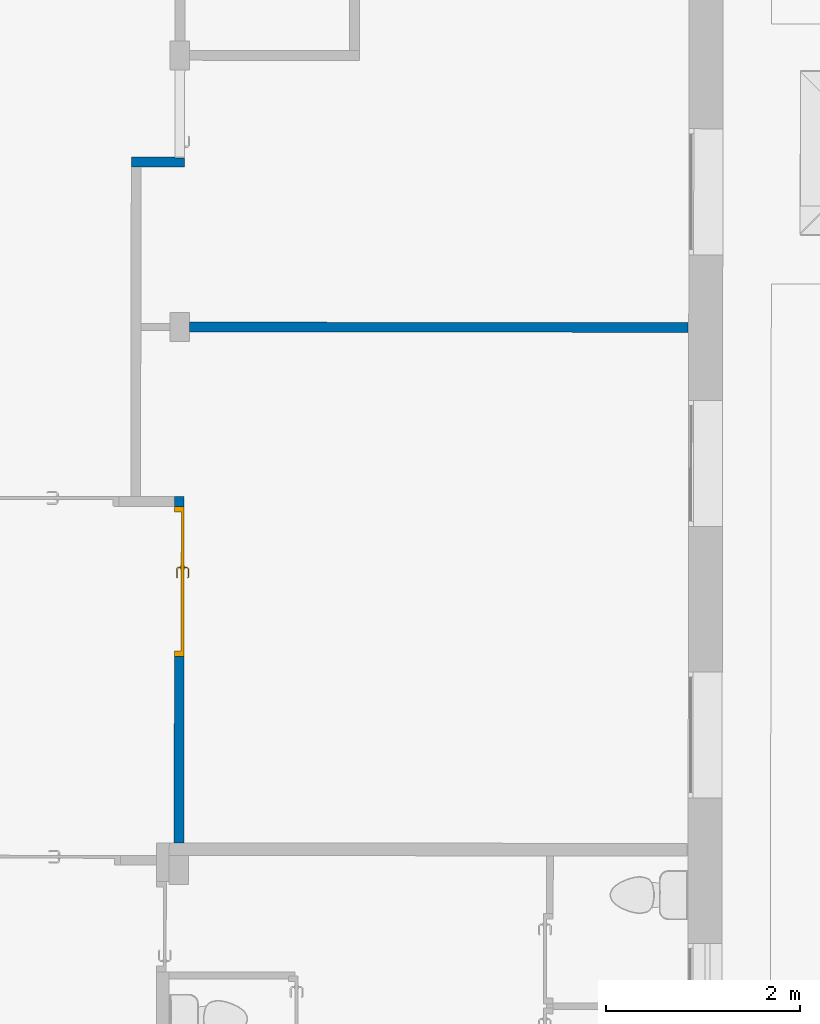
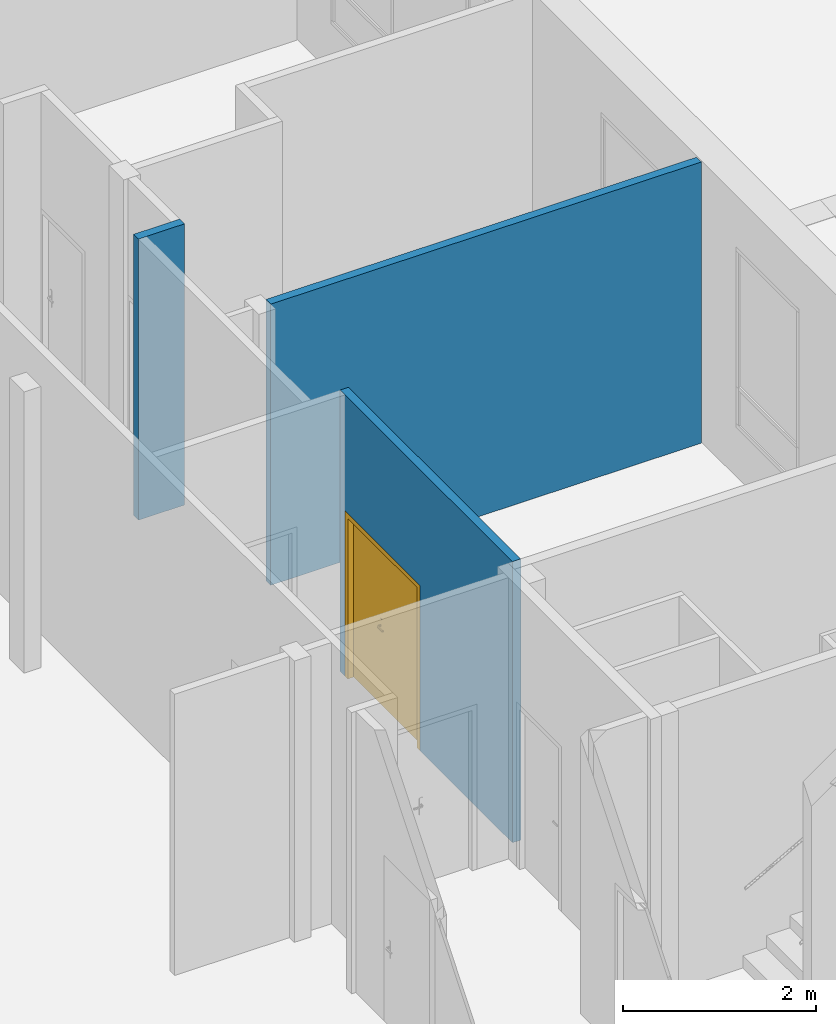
# One storey, part 63 of 101: 3 walls, 1 door, 2 openings.
"""IFC2X3 building model written with IfcOpenShell, lengths in metres."""

from ifc_helpers import new_model, entity, si_unit, converted_unit, derived_unit, direction, frame, frame_2d, origin, place, context, subcontext, project, spatial, rectangle, extrude, faceted_brep, source, transform, mapped, material, material_list, layer, layer_set, layer_usage, type_object, type_shapes, element, fill, save


model = new_model("IFC2X3")

# Units and contexts
model_context = context("Model", 3, precision=1e-05, world=origin(), true_north=direction((6.123233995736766e-17, 1.0)))
body_context = subcontext(model_context, "Body", "Model", "MODEL_VIEW")
ifc_project = project(units=[si_unit("LENGTHUNIT", "METRE"), si_unit("AREAUNIT", "SQUARE_METRE"), converted_unit("PLANEANGLEUNIT", "DEGREE", entity("IfcPlaneAngleMeasure", 0.017453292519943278), si_unit("PLANEANGLEUNIT", "RADIAN"), dimensions=[0, 0, 0, 0, 0, 0, 0]), derived_unit("THERMALTRANSMITTANCEUNIT", [(si_unit("MASSUNIT", "GRAM", prefix="KILO"), 1), (si_unit("THERMODYNAMICTEMPERATUREUNIT", "KELVIN"), -1), (si_unit("TIMEUNIT", "SECOND"), -3)])], contexts=[model_context])

# Site, building, storey
site_placement = place(None, frame((1253.6752467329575, 2072.143113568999, 91.49999999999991), z_axis=(0.0, 0.0, 1.0), x_axis=(0.7237211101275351, 0.6900925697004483, 0.0)))
site = spatial("IfcSite", under=ifc_project, at=site_placement, Name="Surface", CompositionType="ELEMENT")
building_placement = place(site_placement, origin())
building = spatial("IfcBuilding", under=site, at=building_placement, CompositionType="ELEMENT")
storey_placement = place(building_placement, origin())
storey = spatial("IfcBuildingStorey", under=building, at=storey_placement, Name="0- Rdc", CompositionType="ELEMENT", Elevation=-5.764692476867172e-13)

# Wall, opening, door
ifc_material_1 = material(Name="OMD_Béton blanc")
ifc_layer = layer(ifc_material_1, 0.1)
ifc_layer_set = layer_set([ifc_layer], Name="Mur de base:MUR 10")
ifc_layer_usage_1 = layer_usage(ifc_layer_set, "AXIS2", "NEGATIVE", 0.05)
wall_type = type_object("IfcWallType", Name="Mur de base:MUR 10", PredefinedType="STANDARD", material=ifc_layer_set)
wall_1_placement = place(storey_placement, frame((162.7655041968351, 12.016032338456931, 0.0), z_axis=(0.0, 0.0, 1.0), x_axis=(-0.6909838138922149, -0.7228702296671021, 0.0)))
wall_1 = element("IfcWallStandardCase", 1, at=wall_1_placement, inside=storey, type_object=wall_type, material=ifc_layer_usage_1, Name="Mur de base:MUR 10", ObjectType="Mur de base:MUR 10", context=body_context, shape_type="SweptSolid", body=[
    extrude(rectangle(XDim=3.570000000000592, YDim=0.10000000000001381, at=frame_2d((1.785000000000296, -2.7755575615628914e-15), x_axis=(-1.0, 0.0))), origin(), (0.0, 0.0, 1.0), 3.5499999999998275),
])
opening_1_placement = place(wall_1_placement, frame((0.0999999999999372, -0.050000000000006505, 0.0)))
opening_1 = element("IfcOpeningElement", 2, at=opening_1_placement, cuts=wall_1, Name="OMD_Porte 2V tunnel:140x204:1", ObjectType="Opening", context=body_context, shape_type="SweptSolid", body=[
    extrude(rectangle(XDim=2.085, YDim=1.5499999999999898, at=frame_2d((1.0425, 0.7749999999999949), x_axis=(1.0, 0.0))), frame((0.0, 0.0, 0.0), z_axis=(0.0, 1.0, 0.0), x_axis=(0.0, 0.0, 1.0)), (0.0, 0.0, 1.0), 0.1),
])
ifc_material_2 = material(Name="<Unnamed>")
ifc_material_3 = material(Name="Porte - Poignée")
ifc_material_4 = material(Name="OMD_Bois")
ifc_material_list = material_list([ifc_material_2, ifc_material_3, ifc_material_4])
door_style = type_object("IfcDoorStyle", Name="OMD_Porte 2V tunnel:140x204", ConstructionType="NOTDEFINED", OperationType="NOTDEFINED", ParameterTakesPrecedence=False, Sizeable=False, material=ifc_material_list)
shared_shape = source(origin(), body_context, "Body", "Brep", [
    faceted_brep([(1.5049999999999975, 0.030000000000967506, 0.0), (1.5049999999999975, 0.0, 0.0), (0.9749999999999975, 0.0, 0.0), (0.9749999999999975, 0.030000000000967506, 0.0), (1.5049999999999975, 0.030000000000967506, 2.04), (1.5049999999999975, 0.0, 2.04), (0.9749999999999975, 0.0, 2.04), (0.9749999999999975, 0.030000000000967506, 2.04)], [[[0, 1, 2, 3]], [[4, 5, 1, 0]], [[5, 6, 2, 1]], [[6, 7, 3, 2]], [[7, 4, 0, 3]], [[4, 7, 6, 5]]]),
    faceted_brep([(0.9220252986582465, 0.035000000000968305, 1.0077804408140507), (0.9179747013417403, 0.035000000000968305, 1.007780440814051), (0.913999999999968, 0.035000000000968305, 1.00699999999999), (0.913999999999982, 0.035000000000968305, 0.9930000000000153), (0.9179747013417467, 0.035000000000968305, 0.9922195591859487), (0.9220252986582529, 0.035000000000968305, 0.9922195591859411), (0.9260000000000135, 0.035000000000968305, 0.9929999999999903), (0.9260000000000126, 0.035000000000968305, 1.006999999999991), (0.913999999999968, 0.0574852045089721, 1.00699999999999), (0.913999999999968, 0.057485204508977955, 0.9930000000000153), (0.91797470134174, 0.05913157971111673, 1.007780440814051), (0.9220252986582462, 0.06080939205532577, 1.0077804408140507), (0.9058389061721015, 0.07699578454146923, 1.0077804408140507), (0.9041610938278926, 0.07294518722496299, 1.007780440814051), (0.8207931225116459, 0.07294518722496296, 1.0077804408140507), (0.8191153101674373, 0.07699578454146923, 1.0077804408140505), (0.8114510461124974, 0.06933152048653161, 1.0077804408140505), (0.8143152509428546, 0.06646731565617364, 1.0077804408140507), (0.9260000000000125, 0.06245576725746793, 1.006999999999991), (0.9260000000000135, 0.06245576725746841, 0.9929999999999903), (0.9220252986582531, 0.060809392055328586, 0.9922195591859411), (0.9179747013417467, 0.05913157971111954, 0.9922195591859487), (0.9041610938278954, 0.07294518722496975, 0.9922195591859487), (0.9058389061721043, 0.07699578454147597, 0.9922195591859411), (0.8191153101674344, 0.07699578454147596, 0.9922195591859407), (0.8207931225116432, 0.07294518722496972, 0.9922195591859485), (0.8143152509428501, 0.06646731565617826, 0.9922195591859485), (0.8114510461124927, 0.06933152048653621, 0.9922195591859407), (0.9025147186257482, 0.06897048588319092, 1.00699999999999), (0.9025147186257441, 0.06897048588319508, 0.9930000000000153), (0.9074852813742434, 0.08097048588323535, 1.006999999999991), (0.9074852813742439, 0.08097048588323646, 0.9929999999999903), (0.8624771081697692, 0.06897048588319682, 1.0069999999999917), (0.8224394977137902, 0.06897048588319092, 1.0069999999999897), (0.8224394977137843, 0.06897048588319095, 0.9930000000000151), (0.8624771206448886, 0.06897048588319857, 0.9930000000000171), (0.862477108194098, 0.07512492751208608, 1.0078781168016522), (0.8573994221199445, 0.08097048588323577, 1.0069999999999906), (0.8174689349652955, 0.08097048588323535, 1.0069999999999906), (0.8675547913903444, 0.08097048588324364, 0.9929999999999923), (0.817468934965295, 0.08097048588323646, 0.99299999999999), (0.8624771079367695, 0.07512492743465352, 0.9921218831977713), (0.8086405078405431, 0.0721420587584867, 1.0069999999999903), (0.808640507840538, 0.07214205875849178, 0.9929999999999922), (0.8171257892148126, 0.06365677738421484, 0.9930000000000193), (0.8171257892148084, 0.06365677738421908, 1.0069999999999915)], [[[0, 1, 2, 3, 4, 5, 6, 7]], [[8, 9, 3, 2]], [[1, 10, 8, 2]], [[1, 0, 11, 12, 13, 10]], [[14, 15, 16, 17]], [[7, 18, 11, 0]], [[18, 7, 6, 19]], [[6, 5, 20, 19]], [[5, 4, 21, 22, 23, 20]], [[24, 25, 26, 27]], [[4, 3, 9, 21]], [[28, 29, 9, 8]], [[8, 10, 13, 28]], [[18, 30, 12, 11]], [[31, 30, 18, 19]], [[19, 20, 23, 31]], [[21, 9, 29, 22]], [[29, 28, 32, 33, 34, 35]], [[36, 32, 13]], [[37, 38, 15]], [[37, 12, 30]], [[36, 12, 37]], [[14, 32, 36]], [[36, 15, 14]], [[28, 13, 32]], [[32, 14, 33]], [[12, 36, 13]], [[15, 36, 37]], [[30, 31, 39, 40, 38, 37]], [[23, 41, 39]], [[24, 39, 41]], [[39, 31, 23]], [[39, 24, 40]], [[22, 35, 41]], [[41, 23, 22]], [[41, 35, 25]], [[35, 22, 29]], [[34, 25, 35]], [[24, 41, 25]], [[17, 16, 42, 43, 27, 26, 44, 45]], [[45, 44, 34, 33]], [[33, 14, 17, 45]], [[15, 38, 42, 16]], [[43, 42, 38, 40]], [[24, 27, 43, 40]], [[34, 44, 26, 25]]]),
    faceted_brep([(0.9179747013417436, -0.004999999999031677, 1.007780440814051), (0.92202529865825, -0.004999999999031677, 1.0077804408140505), (0.9260000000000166, -0.004999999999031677, 1.0069999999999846), (0.9260000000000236, -0.004999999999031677, 0.9929999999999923), (0.9220252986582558, -0.004999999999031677, 0.992219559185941), (0.9179747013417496, -0.004999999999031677, 0.9922195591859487), (0.9139999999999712, -0.004999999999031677, 0.9930000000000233), (0.9139999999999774, -0.004999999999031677, 1.006999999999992), (0.9220252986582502, -0.031004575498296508, 1.0077804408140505), (0.9260000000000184, -0.03265095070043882, 1.0069999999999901), (0.917974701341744, -0.029326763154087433, 1.007780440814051), (0.9042986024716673, -0.043002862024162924, 1.007780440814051), (0.9059764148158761, -0.047053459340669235, 1.0077804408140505), (0.8191424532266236, -0.047053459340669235, 1.0077804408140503), (0.8208202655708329, -0.043002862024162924, 1.0077804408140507), (0.8143423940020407, -0.036524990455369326, 1.0077804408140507), (0.8114781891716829, -0.03938919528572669, 1.0077804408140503), (0.9139999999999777, -0.02768038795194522, 1.006999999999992), (0.9139999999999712, -0.02768038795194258, 0.9930000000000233), (0.9179747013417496, -0.029326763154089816, 0.9922195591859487), (0.9220252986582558, -0.031004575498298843, 0.992219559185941), (0.9059764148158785, -0.04705345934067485, 0.992219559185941), (0.9042986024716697, -0.04300286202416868, 0.9922195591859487), (0.8208202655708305, -0.04300286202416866, 0.9922195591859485), (0.8191424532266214, -0.04705345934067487, 0.9922195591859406), (0.8114781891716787, -0.03938919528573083, 0.9922195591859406), (0.8143423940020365, -0.03652499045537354, 0.9922195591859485), (0.9260000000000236, -0.03265095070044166, 0.9929999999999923), (0.9076227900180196, -0.051028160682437, 1.0069999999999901), (0.9026522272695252, -0.0390281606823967, 1.006999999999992), (0.9026522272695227, -0.03902816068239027, 0.9930000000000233), (0.907622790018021, -0.051028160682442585, 0.9929999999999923), (0.8625594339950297, -0.045182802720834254, 1.0078781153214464), (0.8676923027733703, -0.051028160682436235, 1.0069999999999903), (0.8174960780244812, -0.05102816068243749, 1.00699999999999), (0.8625594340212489, -0.03902816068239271, 1.0069999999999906), (0.8224666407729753, -0.03902816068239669, 1.0069999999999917), (0.8625594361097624, -0.03902816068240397, 0.9930000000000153), (0.8224666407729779, -0.03902816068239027, 0.9930000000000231), (0.8625594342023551, -0.04518280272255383, 0.9921218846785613), (0.857426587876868, -0.051028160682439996, 0.9929999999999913), (0.8174960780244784, -0.051028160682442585, 0.9929999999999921), (0.8171529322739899, -0.03371445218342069, 0.9930000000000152), (0.8086676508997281, -0.042199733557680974, 0.9929999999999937), (0.8086676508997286, -0.042199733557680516, 1.0069999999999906), (0.8171529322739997, -0.033714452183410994, 1.0069999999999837)], [[[0, 1, 2, 3, 4, 5, 6, 7]], [[2, 1, 8, 9]], [[1, 0, 10, 11, 12, 8]], [[13, 14, 15, 16]], [[0, 7, 17, 10]], [[18, 17, 7, 6]], [[5, 19, 18, 6]], [[5, 4, 20, 21, 22, 19]], [[23, 24, 25, 26]], [[3, 27, 20, 4]], [[9, 27, 3, 2]], [[9, 8, 12, 28]], [[10, 17, 29, 11]], [[30, 29, 17, 18]], [[18, 19, 22, 30]], [[20, 27, 31, 21]], [[28, 31, 27, 9]], [[12, 32, 33]], [[13, 33, 32]], [[33, 28, 12]], [[33, 13, 34]], [[11, 35, 32]], [[32, 12, 11]], [[32, 35, 14]], [[35, 11, 29]], [[36, 14, 35]], [[13, 32, 14]], [[29, 30, 37, 38, 36, 35]], [[39, 37, 22]], [[40, 41, 24]], [[40, 21, 31]], [[39, 21, 40]], [[23, 37, 39]], [[39, 24, 23]], [[30, 22, 37]], [[37, 23, 38]], [[21, 39, 22]], [[24, 39, 40]], [[31, 28, 33, 34, 41, 40]], [[42, 26, 25, 43, 44, 16, 15, 45]], [[13, 16, 44, 34]], [[36, 45, 15, 14]], [[42, 45, 36, 38]], [[38, 23, 26, 42]], [[24, 41, 43, 25]], [[44, 43, 41, 34]]]),
    faceted_brep([(0.9199999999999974, 0.03000000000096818, 0.8646410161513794), (0.9303527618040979, 0.03000000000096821, 0.866003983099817), (0.939999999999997, 0.030000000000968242, 0.8700000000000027), (0.939999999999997, 0.030000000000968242, 1.0800000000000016), (0.9303527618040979, 0.03000000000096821, 1.0839960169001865), (0.9199999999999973, 0.03000000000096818, 1.0853589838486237), (0.9096472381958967, 0.030000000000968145, 1.0839960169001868), (0.8999999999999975, 0.030000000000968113, 1.0800000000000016), (0.8999999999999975, 0.030000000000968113, 0.8700000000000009), (0.9096472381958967, 0.030000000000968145, 0.8660039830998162), (0.9199999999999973, 0.03500000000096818, 1.0853589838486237), (0.9303527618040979, 0.035000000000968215, 1.0839960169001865), (0.939999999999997, 0.03500000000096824, 1.0800000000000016), (0.9399999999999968, 0.03500000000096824, 0.8700000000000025), (0.9303527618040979, 0.035000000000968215, 0.866003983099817), (0.9199999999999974, 0.03500000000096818, 0.8646410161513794), (0.9096472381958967, 0.035000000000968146, 0.8660039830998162), (0.8999999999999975, 0.03500000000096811, 0.8700000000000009), (0.8999999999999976, 0.03500000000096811, 1.0800000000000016), (0.9096472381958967, 0.035000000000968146, 1.0839960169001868)], [[[0, 1, 2, 3, 4, 5, 6, 7, 8, 9]], [[10, 11, 12, 13, 14, 15, 16, 17, 18, 19]], [[6, 19, 18, 7]], [[5, 10, 19, 6]], [[4, 11, 10, 5]], [[4, 3, 12, 11]], [[12, 3, 2, 13]], [[1, 14, 13, 2]], [[0, 15, 14, 1]], [[9, 16, 15, 0]], [[9, 8, 17, 16]], [[17, 8, 7, 18]]]),
    faceted_brep([(0.9199999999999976, -0.004999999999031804, 0.8646410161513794), (0.9303527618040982, -0.00499999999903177, 0.8660039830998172), (0.9399999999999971, -0.0049999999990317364, 0.8700000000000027), (0.939999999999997, -0.0049999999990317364, 1.0800000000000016), (0.9303527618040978, -0.00499999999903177, 1.0839960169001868), (0.9199999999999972, -0.004999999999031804, 1.0853589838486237), (0.9096472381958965, -0.004999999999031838, 1.0839960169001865), (0.8999999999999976, -0.004999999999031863, 1.0800000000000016), (0.8999999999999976, -0.004999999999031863, 0.8700000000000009), (0.9096472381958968, -0.004999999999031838, 0.8660039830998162), (0.939999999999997, 0.0, 1.0800000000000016), (0.9399999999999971, 0.0, 0.8700000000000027), (0.9303527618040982, 0.0, 0.8660039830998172), (0.9199999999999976, 0.0, 0.8646410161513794), (0.9096472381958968, 0.0, 0.8660039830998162), (0.8999999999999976, 0.0, 0.8700000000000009), (0.8999999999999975, 0.0, 1.0800000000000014), (0.9096472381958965, 0.0, 1.0839960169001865), (0.9199999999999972, 0.0, 1.0853589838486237), (0.9303527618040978, 0.0, 1.0839960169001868)], [[[0, 1, 2, 3, 4, 5, 6, 7, 8, 9]], [[10, 11, 12, 13, 14, 15, 16, 17, 18, 19]], [[1, 12, 11, 2]], [[0, 13, 12, 1]], [[9, 14, 13, 0]], [[9, 8, 15, 14]], [[15, 8, 7, 16]], [[6, 17, 16, 7]], [[5, 18, 17, 6]], [[4, 19, 18, 5]], [[4, 3, 10, 19]], [[10, 3, 2, 11]]]),
    faceted_brep([(0.9750000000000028, 0.030000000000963, 0.0), (0.9750000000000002, 0.0, 0.0), (0.04500000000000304, 0.0, 0.0), (0.04500000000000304, 0.0300000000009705, 0.0), (0.9750000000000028, 0.030000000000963, 2.04), (0.9750000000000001, 0.0, 2.04), (0.04500000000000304, 0.0, 2.04), (0.04500000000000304, 0.0300000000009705, 2.04)], [[[0, 1, 2, 3]], [[4, 5, 1, 0]], [[5, 6, 2, 1]], [[6, 7, 3, 2]], [[7, 4, 0, 3]], [[4, 7, 6, 5]]]),
    faceted_brep([(1.5499999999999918, 0.0, 0.0), (1.5049999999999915, 0.0, 0.0), (1.5049999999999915, 0.0300000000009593, 0.0), (1.4899999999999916, 0.030000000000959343, 0.0), (1.489999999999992, 0.10000000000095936, 0.0), (1.549999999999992, 0.10000000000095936, 0.0), (1.5499999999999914, 0.0, 2.0849999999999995), (0.0, 0.0, 2.0849999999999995), (0.0, 0.0, 0.0), (0.04499999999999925, 0.0, 0.0), (0.04499999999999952, 0.0, 2.0399999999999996), (1.5049999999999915, 0.0, 2.0399999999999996), (1.5049999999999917, 0.0300000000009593, 2.0399999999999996), (0.04499999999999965, 0.030000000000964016, 2.039999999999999), (0.04499999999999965, 0.030000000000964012, 0.0), (0.05999999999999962, 0.030000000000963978, 0.0), (0.05999999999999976, 0.03000000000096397, 2.0249999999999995), (1.4899999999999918, 0.030000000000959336, 2.0249999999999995), (1.489999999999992, 0.10000000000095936, 2.025), (0.05999999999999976, 0.10000000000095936, 2.0249999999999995), (0.05999999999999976, 0.10000000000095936, 0.0), (0.0, 0.10000000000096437, 0.0), (0.0, 0.10000000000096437, 2.0849999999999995), (1.549999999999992, 0.10000000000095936, 2.085)], [[[0, 1, 2, 3, 4, 5]], [[1, 0, 6, 7, 8, 9, 10, 11]], [[2, 1, 11, 12]], [[3, 2, 12, 13, 14, 15, 16, 17]], [[4, 3, 17, 18]], [[5, 4, 18, 19, 20, 21, 22, 23]], [[0, 5, 23, 6]], [[7, 22, 21, 8]], [[8, 21, 20, 15, 14, 9]], [[13, 10, 9, 14]], [[19, 16, 15, 20]], [[12, 11, 10, 13]], [[18, 17, 16, 19]], [[6, 23, 22, 7]]]),
])
type_shapes(door_style, [shared_shape])
door_placement = place(opening_1_placement, frame((1.5499999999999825, 0.10000000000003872, 0.0), z_axis=(0.0, 0.0, 1.0), x_axis=(-1.0, 0.0, 0.0)))
door = element("IfcDoor", 3, at=door_placement, inside=storey, type_object=door_style, material=ifc_material_list, Name="OMD_Porte 2V tunnel:140x204", ObjectType="OMD_Porte 2V tunnel:140x204", OverallHeight=2.085, OverallWidth=1.5499999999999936, context=body_context, shape_type="MappedRepresentation", body=[
    mapped(shared_shape, transform((0.0, 0.0, 0.0), scale=1.0)),
])
fill(opening_1, door)

# Wall, opening
ifc_layer_usage_2 = layer_usage(ifc_layer_set, "AXIS2", "NEGATIVE", 0.05)
wall_2_placement = place(storey_placement, frame((165.18554186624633, 14.475385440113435, 0.0), z_axis=(0.0, 0.0, 1.0), x_axis=(-0.7228702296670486, 0.6909838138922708, 0.0)))
wall_2 = element("IfcWallStandardCase", 4, at=wall_2_placement, inside=storey, type_object=wall_type, material=ifc_layer_usage_2, Name="Mur de base:MUR 10", ObjectType="Mur de base:MUR 10", context=body_context, shape_type="SweptSolid", body=[
    extrude(rectangle(XDim=0.5500000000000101, YDim=0.10000000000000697, at=frame_2d((0.2750000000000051, -2.67841304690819e-15), x_axis=(-1.0, 0.0))), origin(), (0.0, 0.0, 1.0), 3.5499999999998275),
])
opening_2_placement = place(wall_2_placement, frame((109.40545354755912, 124.60436091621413, 0.0)))
element("IfcOpeningElement", 5, at=opening_2_placement, cuts=wall_2, Name="Mur de base:MUR 10", ObjectType="Opening", context=body_context, shape_type="SweptSolid", body=[
    extrude(rectangle(XDim=2.0850000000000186, YDim=0.09999999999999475, at=frame_2d((-1.8512968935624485e-14, 1.1102230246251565e-16), x_axis=(0.0, 1.0))), frame((-109.35545354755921, -125.58186091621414, 1.0425000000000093), z_axis=(0.0, 1.0, 0.0), x_axis=(-1.0, 0.0, 0.0)), (0.0, 0.0, 1.0), 0.93500000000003),
])

# Wall
ifc_layer_usage_3 = layer_usage(ifc_layer_set, "AXIS2", "NEGATIVE", 0.05)
wall_3_placement = place(storey_placement, frame((167.76256587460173, 9.660300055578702, 0.0), z_axis=(0.0, 0.0, 1.0), x_axis=(-0.7228702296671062, 0.6909838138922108, 0.0)))
element("IfcWallStandardCase", 6, at=wall_3_placement, inside=storey, type_object=wall_type, material=ifc_layer_usage_3, Name="Mur de base:MUR 10", ObjectType="Mur de base:MUR 10", context=body_context, shape_type="SweptSolid", body=[
    extrude(rectangle(XDim=5.140000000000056, YDim=0.100000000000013, at=frame_2d((2.570000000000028, -2.3869795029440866e-15), x_axis=(-1.0, 0.0))), origin(), (0.0, 0.0, 1.0), 3.5499999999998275),
])

save(model, "model.ifc")
